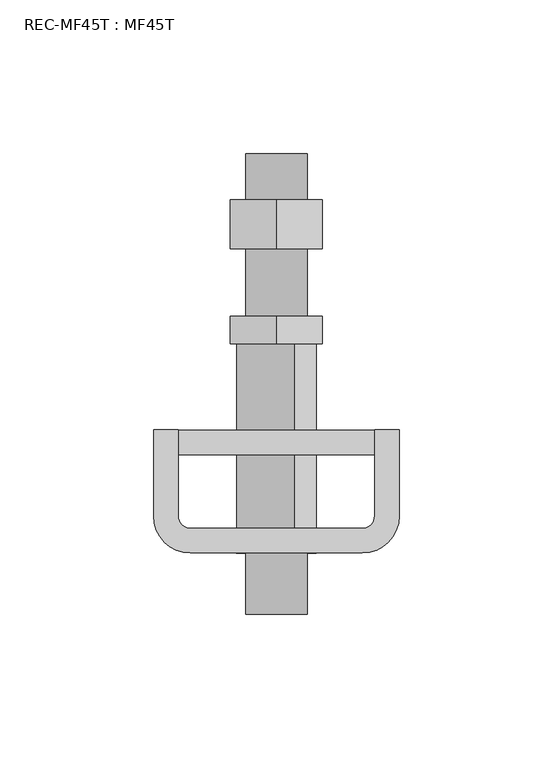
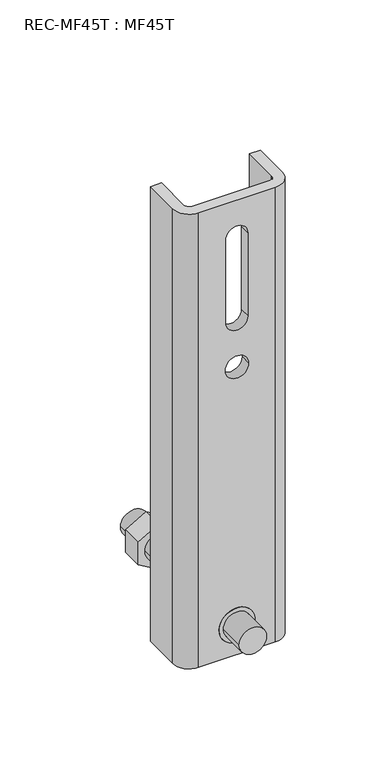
"""IFC4 building model written with IfcOpenShell, lengths in millimetres: fastener geometry, REC-MF45T : MF45T."""

from ifc_helpers import new_model, si_unit, point, frame, frame_2d, origin, place, context, project, spatial, polyline, circle_curve, trimmed, segment, composite_curve, outline, extrude, source, transform, mapped, element, save
from ifc_brep_helpers import plane_surface, cylinder_surface, revolved_surface, advanced_brep


def rec_mf45t_mf45t_64a75cb8(model_context):
    return source(origin(), model_context, "Body", "SolidModel", [
        extrude(outline(polyline([(17.3205081, 1e-07), (25.9807621, -15.0), (17.3205081, -29.9999999), (0.0, -30.0), (-8.660254, -14.9999999), (0.0, 0.0), (17.3205081, 1e-07)]), holes=[composite_curve([segment(trimmed(circle_curve(frame_2d((8.6602541, -15.0)), 10.0), [point((0.0, -10.0))], [point((17.3205081, -20.0))], True, "CARTESIAN"), True, "CONTINUOUS"), segment(trimmed(circle_curve(frame_2d((8.6602541, -15.0)), 10.0), [point((17.3205081, -20.0))], [point((0.0, -10.0))], True, "CARTESIAN"), True, "CONTINUOUS")], self_intersect=False)]), frame((-14.8690169, 68.0802376, 14.339746), z_axis=(-1.0798257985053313e-12, 1.0, 0.0), x_axis=(0.8660254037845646, 0.0, -0.4999999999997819)), (0.0, 0.0, 1.0), 8.9598812),
        extrude(outline(composite_curve([segment(trimmed(circle_curve(frame_2d((0.0, -13.0)), 13.0), [point((0.0, -26.0))], [point((0.0, 0.0))], False, "CARTESIAN"), True, "CONTINUOUS"), segment(trimmed(circle_curve(frame_2d((0.0, -13.0)), 13.0), [point((0.0, 0.0))], [point((0.0, -26.0))], False, "CARTESIAN"), True, "CONTINUOUS")], self_intersect=False), holes=[composite_curve([segment(trimmed(circle_curve(frame_2d((0.0, -13.0)), 10.0), [point((9.5009487, -16.119611))], [point((-9.5009488, -9.8803889))], True, "CARTESIAN"), True, "CONTINUOUS"), segment(trimmed(circle_curve(frame_2d((0.0, -13.0)), 10.0), [point((-9.5009488, -9.8803889))], [point((9.5009487, -16.119611))], True, "CARTESIAN"), True, "CONTINUOUS")], self_intersect=False)]), frame((-5.8639267, 0.0, 11.4647906), z_axis=(-1.0798257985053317e-12, 1.0, 0.0), x_axis=(0.887323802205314, 0.0, -0.46114690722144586)), (0.0, 0.0, 1.0), 68.0802376),
        extrude(outline(polyline([(0.0, 0.0), (0.0, -64.0), (-46.0, -64.0), (-46.0, 0.0), (0.0, 0.0)]), holes=[composite_curve([segment(trimmed(circle_curve(frame_2d((-23.0, -32.0)), 13.0), [point((-23.0, -45.0))], [point((-23.0, -19.0))], True, "CARTESIAN"), True, "CONTINUOUS"), segment(trimmed(circle_curve(frame_2d((-23.0, -32.0)), 13.0), [point((-23.0, -19.0))], [point((-23.0, -45.0))], True, "CARTESIAN"), True, "CONTINUOUS")], self_intersect=False)]), frame((32.1309831, 32.0, 46.0), z_axis=(-1.0798257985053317e-12, 1.0, 0.0), x_axis=(0.0, 0.0, 1.0)), (0.0, 0.0, 1.0), 8.0),
        advanced_brep(
        [(40.1309831, 12.0, 350.0), (40.1309831, 40.0, 350.0), (32.1309831, 40.0, 350.0), (32.1309831, 12.0, 350.0), (28.1309831, 8.0, 350.0), (-27.8690169, 8.0, 350.0), (-31.8690169, 12.0, 350.0), (-31.8690169, 40.0, 350.0), (-39.8690169, 40.0, 350.0), (-39.8690169, 12.0, 350.0), (-27.8690169, 0.0, 350.0), (28.1309831, 0.0, 350.0), (40.1309831, 12.0, 0.0), (28.1309831, 0.0, 0.0), (-27.8690169, 0.0, 0.0), (-39.8690169, 12.0, 0.0), (-39.8690169, 40.0, 0.0), (-31.8690169, 40.0, 0.0), (-31.8690169, 12.0, 0.0), (-27.8690169, 8.0, 0.0), (28.1309831, 8.0, 0.0), (32.1309831, 12.0, 0.0), (32.1309831, 40.0, 0.0), (40.1309831, 40.0, 0.0), (13.1309831, 0.0, 23.0), (-12.8690169, 0.0, 23.0), (8.5, 0.0, 221.4863408), (-8.5, 0.0, 221.4863408), (8.0, 0.0, 257.9863408), (-8.0, 0.0, 257.9863408), (-8.0, 0.0, 321.9863408), (8.0, 0.0, 321.9863408), (-12.8690169, 8.0, 23.0), (13.1309831, 8.0, 23.0), (-8.5, 8.0, 221.4863408), (8.5, 8.0, 221.4863408), (-8.0, 8.0, 257.9863408), (8.0, 8.0, 257.9863408), (8.0, 8.0, 321.9863408), (-8.0, 8.0, 321.9863408)],
        [
            (0, 1),
            (1, 2),
            (2, 3),
            (3, 4, circle_curve(frame((28.1309831, 12.0, 350.0), z_axis=(0.0, 0.0, -1.0), x_axis=(-1.0, -1.0798257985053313e-12, 0.0)), 4.0)),
            (4, 5),
            (5, 6, circle_curve(frame((-27.8690169, 12.0, 350.0), z_axis=(0.0, 0.0, -1.0), x_axis=(-1.0, -1.0798257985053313e-12, 0.0)), 4.0)),
            (6, 7),
            (7, 8),
            (8, 9),
            (9, 10, circle_curve(frame((-27.8690169, 12.0, 350.0), z_axis=(0.0, 0.0, 1.0), x_axis=(-1.0, -1.0798257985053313e-12, 0.0)), 12.0)),
            (10, 11),
            (11, 0, circle_curve(frame((28.1309831, 12.0, 350.0), z_axis=(0.0, 0.0, 1.0), x_axis=(-1.0, -1.0798257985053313e-12, 0.0)), 12.0)),
            (12, 13, circle_curve(frame((28.1309831, 12.0, 0.0), z_axis=(0.0, 0.0, -1.0), x_axis=(-1.0, -1.0798257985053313e-12, 0.0)), 12.0)),
            (13, 14),
            (14, 15, circle_curve(frame((-27.8690169, 12.0, 0.0), z_axis=(0.0, 0.0, -1.0), x_axis=(-1.0, -1.0798257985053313e-12, 0.0)), 12.0)),
            (15, 16),
            (16, 17),
            (17, 18),
            (18, 19, circle_curve(frame((-27.8690169, 12.0, 0.0), z_axis=(0.0, 0.0, 1.0), x_axis=(-1.0, -1.0798257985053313e-12, 0.0)), 4.0)),
            (19, 20),
            (20, 21, circle_curve(frame((28.1309831, 12.0, 0.0), z_axis=(0.0, 0.0, 1.0), x_axis=(-1.0, -1.0798257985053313e-12, 0.0)), 4.0)),
            (21, 22),
            (22, 23),
            (23, 12),
            (11, 13),
            (12, 0),
            (10, 14),
            (24, 25, circle_curve(frame((0.1309831, 0.0, 23.0), z_axis=(-1.0765918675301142e-12, 1.0, 0.0), x_axis=(-1.0, -1.0765918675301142e-12, 0.0)), 13.0)),
            (25, 24, circle_curve(frame((0.1309831, 0.0, 23.0), z_axis=(-1.0765918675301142e-12, 1.0, 0.0), x_axis=(-1.0, -1.0765918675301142e-12, 0.0)), 13.0)),
            (26, 27, circle_curve(frame((0.0, 0.0, 221.4863408), z_axis=(-1.0765918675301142e-12, 1.0, 0.0), x_axis=(-1.0, -1.0765918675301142e-12, 0.0)), 8.5)),
            (27, 26, circle_curve(frame((0.0, 0.0, 221.4863408), z_axis=(-1.0765918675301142e-12, 1.0, 0.0), x_axis=(-1.0, -1.0765918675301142e-12, 0.0)), 8.5)),
            (28, 29, circle_curve(frame((0.0, 0.0, 257.9863408), z_axis=(-1.0765918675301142e-12, 1.0, 0.0), x_axis=(-1.0, -1.0765918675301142e-12, 0.0)), 8.0)),
            (29, 30),
            (30, 31, circle_curve(frame((0.0, 0.0, 321.9863408), z_axis=(-1.0765918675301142e-12, 1.0, 0.0), x_axis=(-1.0, -1.0765918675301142e-12, 0.0)), 8.0)),
            (31, 28),
            (9, 15),
            (8, 16),
            (7, 17),
            (6, 18),
            (5, 19),
            (4, 20),
            (32, 33, circle_curve(frame((0.1309831, 8.0, 23.0), z_axis=(1.0765918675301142e-12, -1.0, 0.0), x_axis=(-1.0, -1.0765918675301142e-12, 0.0)), 13.0)),
            (33, 32, circle_curve(frame((0.1309831, 8.0, 23.0), z_axis=(1.0765918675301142e-12, -1.0, 0.0), x_axis=(-1.0, -1.0765918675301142e-12, 0.0)), 13.0)),
            (34, 35, circle_curve(frame((0.0, 8.0, 221.4863408), z_axis=(1.0765918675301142e-12, -1.0, 0.0), x_axis=(-1.0, -1.0765918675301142e-12, 0.0)), 8.5)),
            (35, 34, circle_curve(frame((0.0, 8.0, 221.4863408), z_axis=(1.0765918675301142e-12, -1.0, 0.0), x_axis=(-1.0, -1.0765918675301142e-12, 0.0)), 8.5)),
            (36, 37, circle_curve(frame((0.0, 8.0, 257.9863408), z_axis=(1.0765918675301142e-12, -1.0, 0.0), x_axis=(-1.0, -1.0765918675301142e-12, 0.0)), 8.0)),
            (37, 38),
            (38, 39, circle_curve(frame((0.0, 8.0, 321.9863408), z_axis=(1.0765918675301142e-12, -1.0, 0.0), x_axis=(-1.0, -1.0765918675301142e-12, 0.0)), 8.0)),
            (39, 36),
            (3, 21),
            (2, 22),
            (1, 23),
            (32, 25),
            (24, 33),
            (34, 27),
            (26, 35),
            (36, 29),
            (28, 37),
            (39, 30),
            (38, 31),
        ],
        [
            plane_surface(frame((40.1309831, 60.0, 350.0), z_axis=(0.0, 0.0, 1.0), x_axis=(-1.0798457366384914e-12, 1.0, 0.0))),
            plane_surface(frame((40.1309831, 60.0, 0.0), z_axis=(0.0, 0.0, -1.0), x_axis=(1.0798457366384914e-12, -1.0, 0.0))),
            cylinder_surface(frame((28.1309831, 12.0, 0.0), z_axis=(0.0, 0.0, 1.0), x_axis=(-1.0, -1.0798257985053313e-12, 0.0)), 12.0),
            plane_surface(frame((-27.8690169, 0.0, 350.0), z_axis=(1.0794652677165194e-12, -1.0, 0.0), x_axis=(0.0, 0.0, -1.0))),
            cylinder_surface(frame((-27.8690169, 12.0, 0.0), z_axis=(0.0, 0.0, 1.0), x_axis=(-1.0, -1.0798257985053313e-12, 0.0)), 12.0),
            plane_surface(frame((-39.8690169, 40.0, 350.0), z_axis=(-1.0, -1.0795435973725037e-12, 0.0), x_axis=(0.0, 0.0, -1.0))),
            plane_surface(frame((-31.8690169, 40.0, 350.0), z_axis=(-1.0796946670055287e-12, 1.0, 0.0), x_axis=(0.0, 0.0, -1.0))),
            plane_surface(frame((-31.8690169, 12.0, 350.0), z_axis=(1.0, 1.079845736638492e-12, 0.0), x_axis=(0.0, 0.0, -1.0))),
            revolved_surface(polyline([(-31.8690169, 11.99999999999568, 0.0), (-31.8690169, 11.99999999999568, 350.0)]), (-27.8690169, 12.0, 0.0), (0.0, 0.0, -1.0)),
            plane_surface(frame((28.1309831, 8.0, 350.0), z_axis=(-1.0797890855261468e-12, 1.0, 0.0), x_axis=(0.0, 0.0, -1.0))),
            revolved_surface(polyline([(24.1309831, 11.99999999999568, 0.0), (24.1309831, 11.99999999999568, 350.0)]), (28.1309831, 12.0, 0.0), (0.0, 0.0, -1.0)),
            plane_surface(frame((32.1309831, 40.0, 350.0), z_axis=(-1.0, -1.0801478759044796e-12, 0.0), x_axis=(0.0, 0.0, -1.0))),
            plane_surface(frame((40.1309831, 40.0, 350.0), z_axis=(-1.0796946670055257e-12, 1.0, 0.0), x_axis=(0.0, 0.0, -1.0))),
            plane_surface(frame((40.1309831, 12.0, 350.0), z_axis=(1.0, 1.0798457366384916e-12, 0.0), x_axis=(0.0, 0.0, -1.0))),
            revolved_surface(polyline([(-12.869016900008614, 8.0, 23.0), (-12.8690169, -2.799138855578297e-11, 23.0)]), (0.1309831, 0.0, 23.0), (-1.0765918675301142e-12, 1.0, 0.0)),
            revolved_surface(polyline([(-8.500000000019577, 8.0, 221.4863408), (-8.500000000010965, -1.830358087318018e-11, 221.4863408)]), (0.0, -10.1845927, 221.4863408), (-1.0765918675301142e-12, 1.0, 0.0)),
            revolved_surface(polyline([(-8.000000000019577, 7.999999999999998, 257.9863408), (-8.000000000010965, -1.722710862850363e-11, 257.9863408)]), (0.0, -10.1845927, 257.9863408), (-1.0765918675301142e-12, 1.0, 0.0)),
            plane_surface(frame((-8.0, 8.0, 257.9863408), z_axis=(1.0, 1.0765222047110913e-12, -3.5374111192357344e-12), x_axis=(1.0765222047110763e-12, -1.0, 0.0))),
            revolved_surface(polyline([(-8.000000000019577, 7.999999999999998, 321.9863408), (-8.000000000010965, -1.722710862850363e-11, 321.9863408)]), (0.0, -10.1845927, 321.9863408), (-1.0765918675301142e-12, 1.0, 0.0)),
            plane_surface(frame((8.0, 8.0, 321.9863408), z_axis=(-1.0, -1.0765222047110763e-12, 0.0), x_axis=(1.0765222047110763e-12, -1.0, 0.0))),
        ],
        [
            (0, [[1, 2, 3, 4, 5, 6, 7, 8, 9, 10, 11, 12]]),
            (1, [[13, 14, 15, 16, 17, 18, 19, 20, 21, 22, 23, 24]]),
            (2, [[-12, 25, -13, 26]]),
            (3, [[-11, 27, -14, -25], [28, 29], [30, 31], [32, 33, 34, 35]]),
            (4, [[-10, 36, -15, -27]]),
            (5, [[-9, 37, -16, -36]]),
            (6, [[-8, 38, -17, -37]]),
            (7, [[-7, 39, -18, -38]]),
            (8, [[-6, 40, -19, -39]]),
            (9, [[-5, 41, -20, -40], [42, 43], [44, 45], [46, 47, 48, 49]]),
            (10, [[-4, 50, -21, -41]]),
            (11, [[-3, 51, -22, -50]]),
            (12, [[-2, 52, -23, -51]]),
            (13, [[-1, -26, -24, -52]]),
            (14, [[53, -28, 54, -42]]),
            (14, [[-53, -43, -54, -29]]),
            (15, [[55, -30, 56, -44]]),
            (15, [[-55, -45, -56, -31]]),
            (16, [[57, -32, 58, -46]]),
            (17, [[-57, -49, 59, -33]]),
            (18, [[-59, -48, 60, -34]]),
            (19, [[-58, -35, -60, -47]]),
        ],
    ),
        extrude(outline(composite_curve([segment(trimmed(circle_curve(frame_2d((0.0, -10.0)), 10.0), [point((0.0, -20.0))], [point((0.0, 0.0))], False, "CARTESIAN"), True, "CONTINUOUS"), segment(trimmed(circle_curve(frame_2d((0.0, -10.0)), 10.0), [point((0.0, 0.0))], [point((0.0, -20.0))], False, "CARTESIAN"), True, "CONTINUOUS")], self_intersect=False)), frame((-9.8690169, -20.0, 23.0), z_axis=(-1.0798257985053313e-12, 1.0, 0.0), x_axis=(0.0, 0.0, -1.0)), (0.0, 0.0, 1.0), 150.0),
        extrude(outline(polyline([(17.3205081, 1e-07), (25.9807621, -15.0), (17.3205081, -29.9999999), (0.0, -30.0), (-8.660254, -14.9999999), (0.0, 0.0), (17.3205081, 1e-07)]), holes=[composite_curve([segment(trimmed(circle_curve(frame_2d((8.6602541, -15.0)), 10.0), [point((0.0, -10.0))], [point((17.3205081, -20.0))], True, "CARTESIAN"), True, "CONTINUOUS"), segment(trimmed(circle_curve(frame_2d((8.6602541, -15.0)), 10.0), [point((17.3205081, -20.0))], [point((0.0, -10.0))], True, "CARTESIAN"), True, "CONTINUOUS")], self_intersect=False)]), frame((-14.8690169, 99.0401188, 14.339746), z_axis=(-1.0798257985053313e-12, 1.0, 0.0), x_axis=(0.8660254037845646, 0.0, -0.4999999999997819)), (0.0, 0.0, 1.0), 16.0),
    ])


if __name__ == "__main__":
    model = new_model("IFC4")
    model_context = context("Model", 3, world=origin())
    ifc_project = project(units=[si_unit("LENGTHUNIT", "METRE", prefix="MILLI")], contexts=[model_context])
    site = spatial("IfcSite", under=ifc_project)
    building = spatial("IfcBuilding", under=site)
    placement = place(None, origin())
    rec_mf45t_mf45t_shape = rec_mf45t_mf45t_64a75cb8(model_context)
    element("IfcFastener", 1, ObjectType="REC-MF45T : MF45T", at=placement, inside=building, context=model_context, shape_type="MappedRepresentation", body=[
        mapped(rec_mf45t_mf45t_shape, transform((0.0, 0.0, 0.0), x_axis=(1.0, 0.0, 0.0), y_axis=(0.0, 1.0, 0.0), z_axis=(0.0, 0.0, 1.0))),
    ])
    save(model, "model.ifc")
